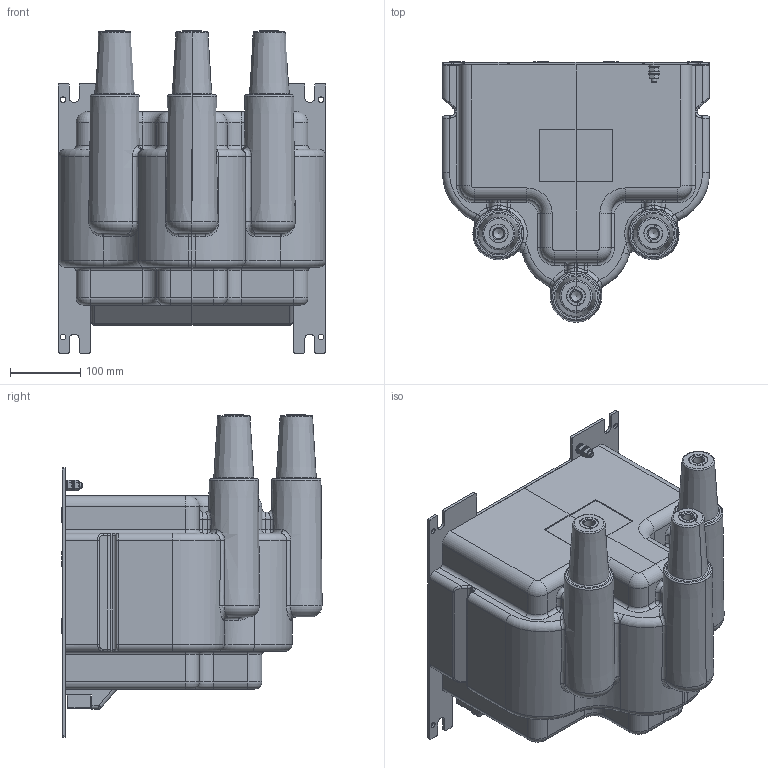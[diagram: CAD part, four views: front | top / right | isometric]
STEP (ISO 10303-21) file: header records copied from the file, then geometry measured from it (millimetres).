
FILE_DESCRIPTION(('STEP AP203'), '1');
FILE_NAME('Ñáîðêà 3ÍÈËÏ-ÍÒÇ-10-01 ver2', '', ('UNSPECIFIED'), ('UNSPECIFIED'), 'C3D Converter', 'C3D Toolkit', '');
FILE_SCHEMA(('CONFIG_CONTROL_DESIGN'));
Length unit declared in the file: millimetre
Assembly tree (34 placements, depth 2):
  (unnamed)
    (unnamed)
    (unnamed)  x15
    (unnamed)  x2
    (unnamed)  x3
    (unnamed)  x3
    (unnamed)
    (unnamed)  x2
    (unnamed)  x6
    (unnamed)
Bounding box: 380 x 370.2 x 458.56 mm (x, y, z)
Volume: 17704665.8 mm3; surface area: 1611034.9 mm2
Topology: 35 solids, 37 shells, 1598 faces, 3964 edges, 2463 vertices
Faces by surface type: plane 719, cylinder 529, torus 153, cone 105, bspline 58, sphere 34
Full cylindrical faces by diameter (mm): 4.5 x4, 4.917 x2, 6 x15, 6.647 x2, 8 x5, 8.4 x3, 10 x2, 12 x31, 14.917 x3, 15 x3, 16 x2, 17.3 x2, 17.989 x3, 21.5 x6, 21.989 x3, 26 x2, 26.989 x3, 94 x4, 135 x2
Entity records: 38890 total; most frequent: CARTESIAN_POINT 12343, DIRECTION 5456, ORIENTED_EDGE 5020, EDGE_CURVE 2510, AXIS2_PLACEMENT_3D 2075, VERTEX_POINT 1608, LINE 1306, VECTOR 1306
